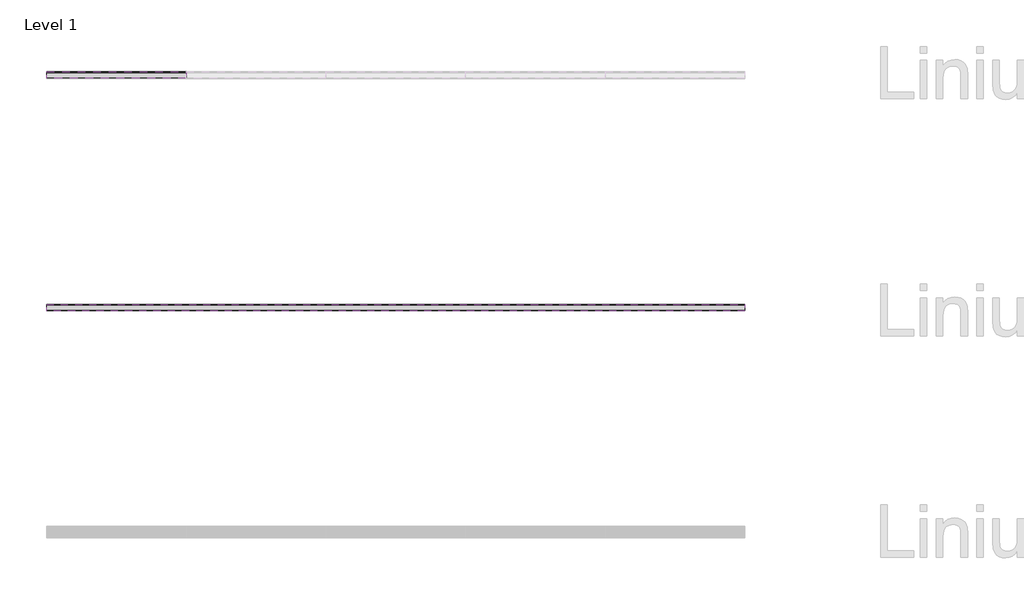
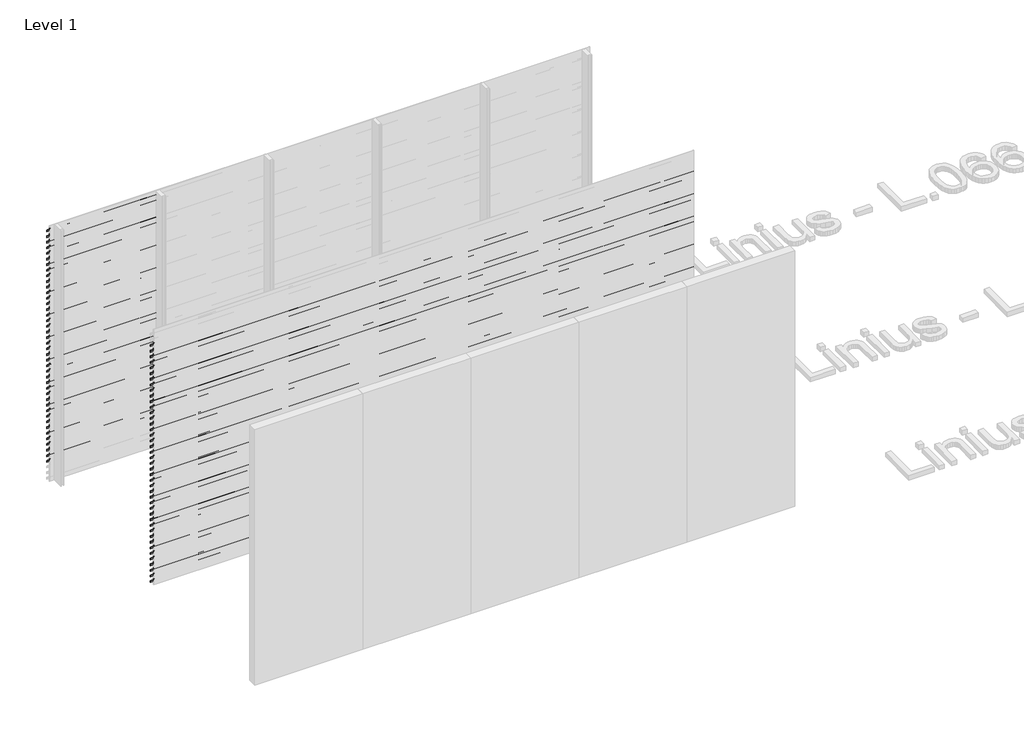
# One storey, part 25 of 540: 85 proxies.
"""IFC4 building model written with IfcOpenShell, lengths in millimetres."""

from ifc_helpers import new_model, si_unit, frame, origin, place, context, project, spatial, polyline, outline, extrude, element, save

model = new_model("IFC4")

# Units and contexts
model_context = context("Model", 3, world=origin())
ifc_project = project(units=[si_unit("LENGTHUNIT", "METRE", prefix="MILLI")], contexts=[model_context])

# Site, building, storey
site = spatial("IfcSite", under=ifc_project)
building = spatial("IfcBuilding", under=site)
storey = spatial("IfcBuildingStorey", under=building, Name="Level 1", Elevation=0.0)

# Proxies
placement = place(None, origin())
element("IfcBuildingElementProxy", 1, Name="Wall Sweeps", at=placement, inside=storey, context=model_context, shape_type="SweptSolid", body=[
    extrude(outline(polyline([(14038.0540136, 2913.5), (14038.0540136, 2893.5), (14036.8040136, 2894.2216933), (14036.8040136, 2912.7872415), (13983.0540136, 2950.3158044), (13983.0540136, 2970.0), (13984.3040136, 2970.0), (13984.3040136, 2951.0285629), (14038.0540136, 2913.5)])), frame((466.6208097, 0.0, 0.0), z_axis=(1.0, 0.0, 0.0), x_axis=(0.0, 1.0, 0.0)), (0.0, 0.0, 1.0), 1200.0000002),
])
element("IfcBuildingElementProxy", 2, Name="Wall Sweeps", at=placement, inside=storey, context=model_context, shape_type="SweptSolid", body=[
    extrude(outline(polyline([(14038.0540136, 2847.5), (14038.0540136, 2827.5), (14036.8040136, 2828.2216933), (14036.8040136, 2846.7872415), (13983.0540136, 2884.3158044), (13983.0540136, 2904.0), (13984.3040136, 2904.0), (13984.3040136, 2885.0285629), (14038.0540136, 2847.5)])), frame((466.6208097, 0.0, 0.0), z_axis=(1.0, 0.0, 0.0), x_axis=(0.0, 1.0, 0.0)), (0.0, 0.0, 1.0), 1200.0000002),
])
element("IfcBuildingElementProxy", 3, Name="Wall Sweeps", at=placement, inside=storey, context=model_context, shape_type="SweptSolid", body=[
    extrude(outline(polyline([(14038.0540136, 2781.5), (14038.0540136, 2761.5), (14036.8040136, 2762.2216933), (14036.8040136, 2780.7872415), (13983.0540136, 2818.3158044), (13983.0540136, 2838.0), (13984.3040136, 2838.0), (13984.3040136, 2819.0285629), (14038.0540136, 2781.5)])), frame((466.6208097, 0.0, 0.0), z_axis=(1.0, 0.0, 0.0), x_axis=(0.0, 1.0, 0.0)), (0.0, 0.0, 1.0), 1200.0000002),
])
element("IfcBuildingElementProxy", 4, Name="Wall Sweeps", at=placement, inside=storey, context=model_context, shape_type="SweptSolid", body=[
    extrude(outline(polyline([(14038.0540136, 2715.5), (14038.0540136, 2695.5), (14036.8040136, 2696.2216933), (14036.8040136, 2714.7872415), (13983.0540136, 2752.3158044), (13983.0540136, 2772.0), (13984.3040136, 2772.0), (13984.3040136, 2753.0285629), (14038.0540136, 2715.5)])), frame((466.6208097, 0.0, 0.0), z_axis=(1.0, 0.0, 0.0), x_axis=(0.0, 1.0, 0.0)), (0.0, 0.0, 1.0), 1200.0000002),
])
element("IfcBuildingElementProxy", 5, Name="Wall Sweeps", at=placement, inside=storey, context=model_context, shape_type="SweptSolid", body=[
    extrude(outline(polyline([(14038.0540136, 2649.5), (14038.0540136, 2629.5), (14036.8040136, 2630.2216933), (14036.8040136, 2648.7872415), (13983.0540136, 2686.3158044), (13983.0540136, 2706.0), (13984.3040136, 2706.0), (13984.3040136, 2687.0285629), (14038.0540136, 2649.5)])), frame((466.6208097, 0.0, 0.0), z_axis=(1.0, 0.0, 0.0), x_axis=(0.0, 1.0, 0.0)), (0.0, 0.0, 1.0), 1200.0000002),
])
element("IfcBuildingElementProxy", 6, Name="Wall Sweeps", at=placement, inside=storey, context=model_context, shape_type="SweptSolid", body=[
    extrude(outline(polyline([(14038.0540136, 2583.5), (14038.0540136, 2563.5), (14036.8040136, 2564.2216933), (14036.8040136, 2582.7872415), (13983.0540136, 2620.3158044), (13983.0540136, 2640.0), (13984.3040136, 2640.0), (13984.3040136, 2621.0285629), (14038.0540136, 2583.5)])), frame((466.6208097, 0.0, 0.0), z_axis=(1.0, 0.0, 0.0), x_axis=(0.0, 1.0, 0.0)), (0.0, 0.0, 1.0), 1200.0000002),
])
element("IfcBuildingElementProxy", 7, Name="Wall Sweeps", at=placement, inside=storey, context=model_context, shape_type="SweptSolid", body=[
    extrude(outline(polyline([(14038.0540136, 2517.5), (14038.0540136, 2497.5), (14036.8040136, 2498.2216933), (14036.8040136, 2516.7872415), (13983.0540136, 2554.3158044), (13983.0540136, 2574.0), (13984.3040136, 2574.0), (13984.3040136, 2555.0285629), (14038.0540136, 2517.5)])), frame((466.6208097, 0.0, 0.0), z_axis=(1.0, 0.0, 0.0), x_axis=(0.0, 1.0, 0.0)), (0.0, 0.0, 1.0), 1200.0000002),
])
element("IfcBuildingElementProxy", 8, Name="Wall Sweeps", at=placement, inside=storey, context=model_context, shape_type="SweptSolid", body=[
    extrude(outline(polyline([(14038.0540136, 2451.5), (14038.0540136, 2431.5), (14036.8040136, 2432.2216933), (14036.8040136, 2450.7872415), (13983.0540136, 2488.3158044), (13983.0540136, 2508.0), (13984.3040136, 2508.0), (13984.3040136, 2489.0285629), (14038.0540136, 2451.5)])), frame((466.6208097, 0.0, 0.0), z_axis=(1.0, 0.0, 0.0), x_axis=(0.0, 1.0, 0.0)), (0.0, 0.0, 1.0), 1200.0000002),
])
element("IfcBuildingElementProxy", 9, Name="Wall Sweeps", at=placement, inside=storey, context=model_context, shape_type="SweptSolid", body=[
    extrude(outline(polyline([(14038.0540136, 2385.5), (14038.0540136, 2365.5), (14036.8040136, 2366.2216933), (14036.8040136, 2384.7872415), (13983.0540136, 2422.3158044), (13983.0540136, 2442.0), (13984.3040136, 2442.0), (13984.3040136, 2423.0285629), (14038.0540136, 2385.5)])), frame((466.6208097, 0.0, 0.0), z_axis=(1.0, 0.0, 0.0), x_axis=(0.0, 1.0, 0.0)), (0.0, 0.0, 1.0), 1200.0000002),
])
element("IfcBuildingElementProxy", 10, Name="Wall Sweeps", at=placement, inside=storey, context=model_context, shape_type="SweptSolid", body=[
    extrude(outline(polyline([(14038.0540136, 2319.5), (14038.0540136, 2299.5), (14036.8040136, 2300.2216933), (14036.8040136, 2318.7872415), (13983.0540136, 2356.3158044), (13983.0540136, 2376.0), (13984.3040136, 2376.0), (13984.3040136, 2357.0285629), (14038.0540136, 2319.5)])), frame((466.6208097, 0.0, 0.0), z_axis=(1.0, 0.0, 0.0), x_axis=(0.0, 1.0, 0.0)), (0.0, 0.0, 1.0), 1200.0000002),
])
element("IfcBuildingElementProxy", 11, Name="Wall Sweeps", at=placement, inside=storey, context=model_context, shape_type="SweptSolid", body=[
    extrude(outline(polyline([(14038.0540136, 2253.5), (14038.0540136, 2233.5), (14036.8040136, 2234.2216933), (14036.8040136, 2252.7872415), (13983.0540136, 2290.3158044), (13983.0540136, 2310.0), (13984.3040136, 2310.0), (13984.3040136, 2291.0285629), (14038.0540136, 2253.5)])), frame((466.6208097, 0.0, 0.0), z_axis=(1.0, 0.0, 0.0), x_axis=(0.0, 1.0, 0.0)), (0.0, 0.0, 1.0), 1200.0000002),
])
element("IfcBuildingElementProxy", 12, Name="Wall Sweeps", at=placement, inside=storey, context=model_context, shape_type="SweptSolid", body=[
    extrude(outline(polyline([(14038.0540136, 2187.5), (14038.0540136, 2167.5), (14036.8040136, 2168.2216933), (14036.8040136, 2186.7872415), (13983.0540136, 2224.3158044), (13983.0540136, 2244.0), (13984.3040136, 2244.0), (13984.3040136, 2225.0285629), (14038.0540136, 2187.5)])), frame((466.6208097, 0.0, 0.0), z_axis=(1.0, 0.0, 0.0), x_axis=(0.0, 1.0, 0.0)), (0.0, 0.0, 1.0), 1200.0000002),
])
element("IfcBuildingElementProxy", 13, Name="Wall Sweeps", at=placement, inside=storey, context=model_context, shape_type="SweptSolid", body=[
    extrude(outline(polyline([(14038.0540136, 2121.5), (14038.0540136, 2101.5), (14036.8040136, 2102.2216933), (14036.8040136, 2120.7872415), (13983.0540136, 2158.3158044), (13983.0540136, 2178.0), (13984.3040136, 2178.0), (13984.3040136, 2159.0285629), (14038.0540136, 2121.5)])), frame((466.6208097, 0.0, 0.0), z_axis=(1.0, 0.0, 0.0), x_axis=(0.0, 1.0, 0.0)), (0.0, 0.0, 1.0), 1200.0000002),
])
element("IfcBuildingElementProxy", 14, Name="Wall Sweeps", at=placement, inside=storey, context=model_context, shape_type="SweptSolid", body=[
    extrude(outline(polyline([(14038.0540136, 2055.5), (14038.0540136, 2035.5), (14036.8040136, 2036.2216933), (14036.8040136, 2054.7872415), (13983.0540136, 2092.3158044), (13983.0540136, 2112.0), (13984.3040136, 2112.0), (13984.3040136, 2093.0285629), (14038.0540136, 2055.5)])), frame((466.6208097, 0.0, 0.0), z_axis=(1.0, 0.0, 0.0), x_axis=(0.0, 1.0, 0.0)), (0.0, 0.0, 1.0), 1200.0000002),
])
element("IfcBuildingElementProxy", 15, Name="Wall Sweeps", at=placement, inside=storey, context=model_context, shape_type="SweptSolid", body=[
    extrude(outline(polyline([(14038.0540136, 1989.5), (14038.0540136, 1969.5), (14036.8040136, 1970.2216933), (14036.8040136, 1988.7872415), (13983.0540136, 2026.3158044), (13983.0540136, 2046.0), (13984.3040136, 2046.0), (13984.3040136, 2027.0285629), (14038.0540136, 1989.5)])), frame((466.6208097, 0.0, 0.0), z_axis=(1.0, 0.0, 0.0), x_axis=(0.0, 1.0, 0.0)), (0.0, 0.0, 1.0), 1200.0000002),
])
element("IfcBuildingElementProxy", 16, Name="Wall Sweeps", at=placement, inside=storey, context=model_context, shape_type="SweptSolid", body=[
    extrude(outline(polyline([(14038.0540136, 1923.5), (14038.0540136, 1903.5), (14036.8040136, 1904.2216933), (14036.8040136, 1922.7872415), (13983.0540136, 1960.3158044), (13983.0540136, 1980.0), (13984.3040136, 1980.0), (13984.3040136, 1961.0285629), (14038.0540136, 1923.5)])), frame((466.6208097, 0.0, 0.0), z_axis=(1.0, 0.0, 0.0), x_axis=(0.0, 1.0, 0.0)), (0.0, 0.0, 1.0), 1200.0000002),
])
element("IfcBuildingElementProxy", 17, Name="Wall Sweeps", at=placement, inside=storey, context=model_context, shape_type="SweptSolid", body=[
    extrude(outline(polyline([(14038.0540136, 1857.5), (14038.0540136, 1837.5), (14036.8040136, 1838.2216933), (14036.8040136, 1856.7872415), (13983.0540136, 1894.3158044), (13983.0540136, 1914.0), (13984.3040136, 1914.0), (13984.3040136, 1895.0285629), (14038.0540136, 1857.5)])), frame((466.6208097, 0.0, 0.0), z_axis=(1.0, 0.0, 0.0), x_axis=(0.0, 1.0, 0.0)), (0.0, 0.0, 1.0), 1200.0000002),
])
element("IfcBuildingElementProxy", 18, Name="Wall Sweeps", at=placement, inside=storey, context=model_context, shape_type="SweptSolid", body=[
    extrude(outline(polyline([(14038.0540136, 1791.5), (14038.0540136, 1771.5), (14036.8040136, 1772.2216933), (14036.8040136, 1790.7872415), (13983.0540136, 1828.3158044), (13983.0540136, 1848.0), (13984.3040136, 1848.0), (13984.3040136, 1829.0285629), (14038.0540136, 1791.5)])), frame((466.6208097, 0.0, 0.0), z_axis=(1.0, 0.0, 0.0), x_axis=(0.0, 1.0, 0.0)), (0.0, 0.0, 1.0), 1200.0000002),
])
element("IfcBuildingElementProxy", 19, Name="Wall Sweeps", at=placement, inside=storey, context=model_context, shape_type="SweptSolid", body=[
    extrude(outline(polyline([(14038.0540136, 1725.5), (14038.0540136, 1705.5), (14036.8040136, 1706.2216933), (14036.8040136, 1724.7872415), (13983.0540136, 1762.3158044), (13983.0540136, 1782.0), (13984.3040136, 1782.0), (13984.3040136, 1763.0285629), (14038.0540136, 1725.5)])), frame((466.6208097, 0.0, 0.0), z_axis=(1.0, 0.0, 0.0), x_axis=(0.0, 1.0, 0.0)), (0.0, 0.0, 1.0), 1200.0000002),
])
element("IfcBuildingElementProxy", 20, Name="Wall Sweeps", at=placement, inside=storey, context=model_context, shape_type="SweptSolid", body=[
    extrude(outline(polyline([(14038.0540136, 1659.5), (14038.0540136, 1639.5), (14036.8040136, 1640.2216933), (14036.8040136, 1658.7872415), (13983.0540136, 1696.3158044), (13983.0540136, 1716.0), (13984.3040136, 1716.0), (13984.3040136, 1697.0285629), (14038.0540136, 1659.5)])), frame((466.6208097, 0.0, 0.0), z_axis=(1.0, 0.0, 0.0), x_axis=(0.0, 1.0, 0.0)), (0.0, 0.0, 1.0), 1200.0000002),
])
element("IfcBuildingElementProxy", 21, Name="Wall Sweeps", at=placement, inside=storey, context=model_context, shape_type="SweptSolid", body=[
    extrude(outline(polyline([(14038.0540136, 1593.5), (14038.0540136, 1573.5), (14036.8040136, 1574.2216933), (14036.8040136, 1592.7872415), (13983.0540136, 1630.3158044), (13983.0540136, 1650.0), (13984.3040136, 1650.0), (13984.3040136, 1631.0285629), (14038.0540136, 1593.5)])), frame((466.6208097, 0.0, 0.0), z_axis=(1.0, 0.0, 0.0), x_axis=(0.0, 1.0, 0.0)), (0.0, 0.0, 1.0), 1200.0000002),
])
element("IfcBuildingElementProxy", 22, Name="Wall Sweeps", at=placement, inside=storey, context=model_context, shape_type="SweptSolid", body=[
    extrude(outline(polyline([(14038.0540136, 1527.5), (14038.0540136, 1507.5), (14036.8040136, 1508.2216933), (14036.8040136, 1526.7872415), (13983.0540136, 1564.3158044), (13983.0540136, 1584.0), (13984.3040136, 1584.0), (13984.3040136, 1565.0285629), (14038.0540136, 1527.5)])), frame((466.6208097, 0.0, 0.0), z_axis=(1.0, 0.0, 0.0), x_axis=(0.0, 1.0, 0.0)), (0.0, 0.0, 1.0), 1200.0000002),
])
element("IfcBuildingElementProxy", 23, Name="Wall Sweeps", at=placement, inside=storey, context=model_context, shape_type="SweptSolid", body=[
    extrude(outline(polyline([(14038.0540136, 1461.5), (14038.0540136, 1441.5), (14036.8040136, 1442.2216933), (14036.8040136, 1460.7872415), (13983.0540136, 1498.3158044), (13983.0540136, 1518.0), (13984.3040136, 1518.0), (13984.3040136, 1499.0285629), (14038.0540136, 1461.5)])), frame((466.6208097, 0.0, 0.0), z_axis=(1.0, 0.0, 0.0), x_axis=(0.0, 1.0, 0.0)), (0.0, 0.0, 1.0), 1200.0000002),
])
element("IfcBuildingElementProxy", 24, Name="Wall Sweeps", at=placement, inside=storey, context=model_context, shape_type="SweptSolid", body=[
    extrude(outline(polyline([(14038.0540136, 1395.5), (14038.0540136, 1375.5), (14036.8040136, 1376.2216933), (14036.8040136, 1394.7872415), (13983.0540136, 1432.3158044), (13983.0540136, 1452.0), (13984.3040136, 1452.0), (13984.3040136, 1433.0285629), (14038.0540136, 1395.5)])), frame((466.6208097, 0.0, 0.0), z_axis=(1.0, 0.0, 0.0), x_axis=(0.0, 1.0, 0.0)), (0.0, 0.0, 1.0), 1200.0000002),
])
element("IfcBuildingElementProxy", 25, Name="Wall Sweeps", at=placement, inside=storey, context=model_context, shape_type="SweptSolid", body=[
    extrude(outline(polyline([(14038.0540136, 1329.5), (14038.0540136, 1309.5), (14036.8040136, 1310.2216933), (14036.8040136, 1328.7872415), (13983.0540136, 1366.3158044), (13983.0540136, 1386.0), (13984.3040136, 1386.0), (13984.3040136, 1367.0285629), (14038.0540136, 1329.5)])), frame((466.6208097, 0.0, 0.0), z_axis=(1.0, 0.0, 0.0), x_axis=(0.0, 1.0, 0.0)), (0.0, 0.0, 1.0), 1200.0000002),
])
element("IfcBuildingElementProxy", 26, Name="Wall Sweeps", at=placement, inside=storey, context=model_context, shape_type="SweptSolid", body=[
    extrude(outline(polyline([(14038.0540136, 1263.5), (14038.0540136, 1243.5), (14036.8040136, 1244.2216933), (14036.8040136, 1262.7872415), (13983.0540136, 1300.3158044), (13983.0540136, 1320.0), (13984.3040136, 1320.0), (13984.3040136, 1301.0285629), (14038.0540136, 1263.5)])), frame((466.6208097, 0.0, 0.0), z_axis=(1.0, 0.0, 0.0), x_axis=(0.0, 1.0, 0.0)), (0.0, 0.0, 1.0), 1200.0000002),
])
element("IfcBuildingElementProxy", 27, Name="Wall Sweeps", at=placement, inside=storey, context=model_context, shape_type="SweptSolid", body=[
    extrude(outline(polyline([(14038.0540136, 1197.5), (14038.0540136, 1177.5), (14036.8040136, 1178.2216933), (14036.8040136, 1196.7872415), (13983.0540136, 1234.3158044), (13983.0540136, 1254.0), (13984.3040136, 1254.0), (13984.3040136, 1235.0285629), (14038.0540136, 1197.5)])), frame((466.6208097, 0.0, 0.0), z_axis=(1.0, 0.0, 0.0), x_axis=(0.0, 1.0, 0.0)), (0.0, 0.0, 1.0), 1200.0000002),
])
element("IfcBuildingElementProxy", 28, Name="Wall Sweeps", at=placement, inside=storey, context=model_context, shape_type="SweptSolid", body=[
    extrude(outline(polyline([(14038.0540136, 1131.5), (14038.0540136, 1111.5), (14036.8040136, 1112.2216933), (14036.8040136, 1130.7872415), (13983.0540136, 1168.3158044), (13983.0540136, 1188.0), (13984.3040136, 1188.0), (13984.3040136, 1169.0285629), (14038.0540136, 1131.5)])), frame((466.6208097, 0.0, 0.0), z_axis=(1.0, 0.0, 0.0), x_axis=(0.0, 1.0, 0.0)), (0.0, 0.0, 1.0), 1200.0000002),
])
element("IfcBuildingElementProxy", 29, Name="Wall Sweeps", at=placement, inside=storey, context=model_context, shape_type="SweptSolid", body=[
    extrude(outline(polyline([(14038.0540136, 1065.5), (14038.0540136, 1045.5), (14036.8040136, 1046.2216933), (14036.8040136, 1064.7872415), (13983.0540136, 1102.3158044), (13983.0540136, 1122.0), (13984.3040136, 1122.0), (13984.3040136, 1103.0285629), (14038.0540136, 1065.5)])), frame((466.6208097, 0.0, 0.0), z_axis=(1.0, 0.0, 0.0), x_axis=(0.0, 1.0, 0.0)), (0.0, 0.0, 1.0), 1200.0000002),
])
element("IfcBuildingElementProxy", 30, Name="Wall Sweeps", at=placement, inside=storey, context=model_context, shape_type="SweptSolid", body=[
    extrude(outline(polyline([(14038.0540136, 999.5), (14038.0540136, 979.5), (14036.8040136, 980.2216933), (14036.8040136, 998.7872415), (13983.0540136, 1036.3158044), (13983.0540136, 1056.0), (13984.3040136, 1056.0), (13984.3040136, 1037.0285629), (14038.0540136, 999.5)])), frame((466.6208097, 0.0, 0.0), z_axis=(1.0, 0.0, 0.0), x_axis=(0.0, 1.0, 0.0)), (0.0, 0.0, 1.0), 1200.0000002),
])
element("IfcBuildingElementProxy", 31, Name="Wall Sweeps", at=placement, inside=storey, context=model_context, shape_type="SweptSolid", body=[
    extrude(outline(polyline([(14038.0540136, 933.5), (14038.0540136, 913.5), (14036.8040136, 914.2216933), (14036.8040136, 932.7872415), (13983.0540136, 970.3158044), (13983.0540136, 990.0), (13984.3040136, 990.0), (13984.3040136, 971.0285629), (14038.0540136, 933.5)])), frame((466.6208097, 0.0, 0.0), z_axis=(1.0, 0.0, 0.0), x_axis=(0.0, 1.0, 0.0)), (0.0, 0.0, 1.0), 1200.0000002),
])
element("IfcBuildingElementProxy", 32, Name="Wall Sweeps", at=placement, inside=storey, context=model_context, shape_type="SweptSolid", body=[
    extrude(outline(polyline([(14038.0540136, 867.5), (14038.0540136, 847.5), (14036.8040136, 848.2216933), (14036.8040136, 866.7872415), (13983.0540136, 904.3158044), (13983.0540136, 924.0), (13984.3040136, 924.0), (13984.3040136, 905.0285629), (14038.0540136, 867.5)])), frame((466.6208097, 0.0, 0.0), z_axis=(1.0, 0.0, 0.0), x_axis=(0.0, 1.0, 0.0)), (0.0, 0.0, 1.0), 1200.0000002),
])
element("IfcBuildingElementProxy", 33, Name="Wall Sweeps", at=placement, inside=storey, context=model_context, shape_type="SweptSolid", body=[
    extrude(outline(polyline([(14038.0540136, 801.5), (14038.0540136, 781.5), (14036.8040136, 782.2216933), (14036.8040136, 800.7872415), (13983.0540136, 838.3158044), (13983.0540136, 858.0), (13984.3040136, 858.0), (13984.3040136, 839.0285629), (14038.0540136, 801.5)])), frame((466.6208097, 0.0, 0.0), z_axis=(1.0, 0.0, 0.0), x_axis=(0.0, 1.0, 0.0)), (0.0, 0.0, 1.0), 1200.0000002),
])
element("IfcBuildingElementProxy", 34, Name="Wall Sweeps", at=placement, inside=storey, context=model_context, shape_type="SweptSolid", body=[
    extrude(outline(polyline([(14038.0540136, 735.5), (14038.0540136, 715.5), (14036.8040136, 716.2216933), (14036.8040136, 734.7872415), (13983.0540136, 772.3158044), (13983.0540136, 792.0), (13984.3040136, 792.0), (13984.3040136, 773.0285629), (14038.0540136, 735.5)])), frame((466.6208097, 0.0, 0.0), z_axis=(1.0, 0.0, 0.0), x_axis=(0.0, 1.0, 0.0)), (0.0, 0.0, 1.0), 1200.0000002),
])
element("IfcBuildingElementProxy", 35, Name="Wall Sweeps", at=placement, inside=storey, context=model_context, shape_type="SweptSolid", body=[
    extrude(outline(polyline([(14038.0540136, 669.5), (14038.0540136, 649.5), (14036.8040136, 650.2216933), (14036.8040136, 668.7872415), (13983.0540136, 706.3158044), (13983.0540136, 726.0), (13984.3040136, 726.0), (13984.3040136, 707.0285629), (14038.0540136, 669.5)])), frame((466.6208097, 0.0, 0.0), z_axis=(1.0, 0.0, 0.0), x_axis=(0.0, 1.0, 0.0)), (0.0, 0.0, 1.0), 1200.0000002),
])
element("IfcBuildingElementProxy", 36, Name="Wall Sweeps", at=placement, inside=storey, context=model_context, shape_type="SweptSolid", body=[
    extrude(outline(polyline([(14038.0540136, 603.5), (14038.0540136, 583.5), (14036.8040136, 584.2216933), (14036.8040136, 602.7872415), (13983.0540136, 640.3158044), (13983.0540136, 660.0), (13984.3040136, 660.0), (13984.3040136, 641.0285629), (14038.0540136, 603.5)])), frame((466.6208097, 0.0, 0.0), z_axis=(1.0, 0.0, 0.0), x_axis=(0.0, 1.0, 0.0)), (0.0, 0.0, 1.0), 1200.0000002),
])
element("IfcBuildingElementProxy", 37, Name="Wall Sweeps", at=placement, inside=storey, context=model_context, shape_type="SweptSolid", body=[
    extrude(outline(polyline([(14038.0540136, 537.5), (14038.0540136, 517.5), (14036.8040136, 518.2216933), (14036.8040136, 536.7872415), (13983.0540136, 574.3158044), (13983.0540136, 594.0), (13984.3040136, 594.0), (13984.3040136, 575.0285629), (14038.0540136, 537.5)])), frame((466.6208097, 0.0, 0.0), z_axis=(1.0, 0.0, 0.0), x_axis=(0.0, 1.0, 0.0)), (0.0, 0.0, 1.0), 1200.0000002),
])
element("IfcBuildingElementProxy", 38, Name="Wall Sweeps", at=placement, inside=storey, context=model_context, shape_type="SweptSolid", body=[
    extrude(outline(polyline([(14038.0540136, 471.5), (14038.0540136, 451.5), (14036.8040136, 452.2216933), (14036.8040136, 470.7872415), (13983.0540136, 508.3158044), (13983.0540136, 528.0), (13984.3040136, 528.0), (13984.3040136, 509.0285629), (14038.0540136, 471.5)])), frame((466.6208097, 0.0, 0.0), z_axis=(1.0, 0.0, 0.0), x_axis=(0.0, 1.0, 0.0)), (0.0, 0.0, 1.0), 1200.0000002),
])
element("IfcBuildingElementProxy", 39, Name="Wall Sweeps", at=placement, inside=storey, context=model_context, shape_type="SweptSolid", body=[
    extrude(outline(polyline([(14038.0540136, 405.5), (14038.0540136, 385.5), (14036.8040136, 386.2216933), (14036.8040136, 404.7872415), (13983.0540136, 442.3158044), (13983.0540136, 462.0), (13984.3040136, 462.0), (13984.3040136, 443.0285629), (14038.0540136, 405.5)])), frame((466.6208097, 0.0, 0.0), z_axis=(1.0, 0.0, 0.0), x_axis=(0.0, 1.0, 0.0)), (0.0, 0.0, 1.0), 1200.0000002),
])
element("IfcBuildingElementProxy", 40, Name="Wall Sweeps", at=placement, inside=storey, context=model_context, shape_type="SweptSolid", body=[
    extrude(outline(polyline([(14038.0540136, 339.5), (14038.0540136, 319.5), (14036.8040136, 320.2216933), (14036.8040136, 338.7872415), (13983.0540136, 376.3158044), (13983.0540136, 396.0), (13984.3040136, 396.0), (13984.3040136, 377.0285629), (14038.0540136, 339.5)])), frame((466.6208097, 0.0, 0.0), z_axis=(1.0, 0.0, 0.0), x_axis=(0.0, 1.0, 0.0)), (0.0, 0.0, 1.0), 1200.0000002),
])
element("IfcBuildingElementProxy", 41, Name="Wall Sweeps", at=placement, inside=storey, context=model_context, shape_type="SweptSolid", body=[
    extrude(outline(polyline([(14038.0540136, 273.5), (14038.0540136, 253.5), (14036.8040136, 254.2216933), (14036.8040136, 272.7872415), (13983.0540136, 310.3158044), (13983.0540136, 330.0), (13984.3040136, 330.0), (13984.3040136, 311.0285629), (14038.0540136, 273.5)])), frame((466.6208097, 0.0, 0.0), z_axis=(1.0, 0.0, 0.0), x_axis=(0.0, 1.0, 0.0)), (0.0, 0.0, 1.0), 1200.0000002),
])
element("IfcBuildingElementProxy", 42, Name="Wall Sweeps", at=placement, inside=storey, context=model_context, shape_type="SweptSolid", body=[
    extrude(outline(polyline([(14038.0540136, 207.5), (14038.0540136, 187.5), (14036.8040136, 188.2216933), (14036.8040136, 206.7872415), (13983.0540136, 244.3158044), (13983.0540136, 264.0), (13984.3040136, 264.0), (13984.3040136, 245.0285629), (14038.0540136, 207.5)])), frame((466.6208097, 0.0, 0.0), z_axis=(1.0, 0.0, 0.0), x_axis=(0.0, 1.0, 0.0)), (0.0, 0.0, 1.0), 1200.0000002),
])
element("IfcBuildingElementProxy", 43, Name="Wall Sweeps", at=placement, inside=storey, context=model_context, shape_type="SweptSolid", body=[
    extrude(outline(polyline([(12038.0540136, 2781.5), (12038.0540136, 2761.5), (12036.8040136, 2762.2216933), (12036.8040136, 2780.7872415), (11983.0540136, 2818.3158044), (11983.0540136, 2838.0), (11984.3040136, 2838.0), (11984.3040136, 2819.0285629), (12038.0540136, 2781.5)])), frame((466.6208097, 0.0, 0.0), z_axis=(1.0, 0.0, 0.0), x_axis=(0.0, 1.0, 0.0)), (0.0, 0.0, 1.0), 6000.0),
])
element("IfcBuildingElementProxy", 44, Name="Wall Sweeps", at=placement, inside=storey, context=model_context, shape_type="SweptSolid", body=[
    extrude(outline(polyline([(12038.0540136, 2715.5), (12038.0540136, 2695.5), (12036.8040136, 2696.2216933), (12036.8040136, 2714.7872415), (11983.0540136, 2752.3158044), (11983.0540136, 2772.0), (11984.3040136, 2772.0), (11984.3040136, 2753.0285629), (12038.0540136, 2715.5)])), frame((466.6208097, 0.0, 0.0), z_axis=(1.0, 0.0, 0.0), x_axis=(0.0, 1.0, 0.0)), (0.0, 0.0, 1.0), 6000.0),
])
element("IfcBuildingElementProxy", 45, Name="Wall Sweeps", at=placement, inside=storey, context=model_context, shape_type="SweptSolid", body=[
    extrude(outline(polyline([(12038.0540136, 2649.5), (12038.0540136, 2629.5), (12036.8040136, 2630.2216933), (12036.8040136, 2648.7872415), (11983.0540136, 2686.3158044), (11983.0540136, 2706.0), (11984.3040136, 2706.0), (11984.3040136, 2687.0285629), (12038.0540136, 2649.5)])), frame((466.6208097, 0.0, 0.0), z_axis=(1.0, 0.0, 0.0), x_axis=(0.0, 1.0, 0.0)), (0.0, 0.0, 1.0), 6000.0),
])
element("IfcBuildingElementProxy", 46, Name="Wall Sweeps", at=placement, inside=storey, context=model_context, shape_type="SweptSolid", body=[
    extrude(outline(polyline([(12038.0540136, 2583.5), (12038.0540136, 2563.5), (12036.8040136, 2564.2216933), (12036.8040136, 2582.7872415), (11983.0540136, 2620.3158044), (11983.0540136, 2640.0), (11984.3040136, 2640.0), (11984.3040136, 2621.0285629), (12038.0540136, 2583.5)])), frame((466.6208097, 0.0, 0.0), z_axis=(1.0, 0.0, 0.0), x_axis=(0.0, 1.0, 0.0)), (0.0, 0.0, 1.0), 6000.0),
])
element("IfcBuildingElementProxy", 47, Name="Wall Sweeps", at=placement, inside=storey, context=model_context, shape_type="SweptSolid", body=[
    extrude(outline(polyline([(12038.0540136, 2517.5), (12038.0540136, 2497.5), (12036.8040136, 2498.2216933), (12036.8040136, 2516.7872415), (11983.0540136, 2554.3158044), (11983.0540136, 2574.0), (11984.3040136, 2574.0), (11984.3040136, 2555.0285629), (12038.0540136, 2517.5)])), frame((466.6208097, 0.0, 0.0), z_axis=(1.0, 0.0, 0.0), x_axis=(0.0, 1.0, 0.0)), (0.0, 0.0, 1.0), 6000.0),
])
element("IfcBuildingElementProxy", 48, Name="Wall Sweeps", at=placement, inside=storey, context=model_context, shape_type="SweptSolid", body=[
    extrude(outline(polyline([(12038.0540136, 2451.5), (12038.0540136, 2431.5), (12036.8040136, 2432.2216933), (12036.8040136, 2450.7872415), (11983.0540136, 2488.3158044), (11983.0540136, 2508.0), (11984.3040136, 2508.0), (11984.3040136, 2489.0285629), (12038.0540136, 2451.5)])), frame((466.6208097, 0.0, 0.0), z_axis=(1.0, 0.0, 0.0), x_axis=(0.0, 1.0, 0.0)), (0.0, 0.0, 1.0), 6000.0),
])
element("IfcBuildingElementProxy", 49, Name="Wall Sweeps", at=placement, inside=storey, context=model_context, shape_type="SweptSolid", body=[
    extrude(outline(polyline([(12038.0540136, 2385.5), (12038.0540136, 2365.5), (12036.8040136, 2366.2216933), (12036.8040136, 2384.7872415), (11983.0540136, 2422.3158044), (11983.0540136, 2442.0), (11984.3040136, 2442.0), (11984.3040136, 2423.0285629), (12038.0540136, 2385.5)])), frame((466.6208097, 0.0, 0.0), z_axis=(1.0, 0.0, 0.0), x_axis=(0.0, 1.0, 0.0)), (0.0, 0.0, 1.0), 6000.0),
])
element("IfcBuildingElementProxy", 50, Name="Wall Sweeps", at=placement, inside=storey, context=model_context, shape_type="SweptSolid", body=[
    extrude(outline(polyline([(12038.0540136, 2319.5), (12038.0540136, 2299.5), (12036.8040136, 2300.2216933), (12036.8040136, 2318.7872415), (11983.0540136, 2356.3158044), (11983.0540136, 2376.0), (11984.3040136, 2376.0), (11984.3040136, 2357.0285629), (12038.0540136, 2319.5)])), frame((466.6208097, 0.0, 0.0), z_axis=(1.0, 0.0, 0.0), x_axis=(0.0, 1.0, 0.0)), (0.0, 0.0, 1.0), 6000.0),
])
element("IfcBuildingElementProxy", 51, Name="Wall Sweeps", at=placement, inside=storey, context=model_context, shape_type="SweptSolid", body=[
    extrude(outline(polyline([(12038.0540136, 2253.5), (12038.0540136, 2233.5), (12036.8040136, 2234.2216933), (12036.8040136, 2252.7872415), (11983.0540136, 2290.3158044), (11983.0540136, 2310.0), (11984.3040136, 2310.0), (11984.3040136, 2291.0285629), (12038.0540136, 2253.5)])), frame((466.6208097, 0.0, 0.0), z_axis=(1.0, 0.0, 0.0), x_axis=(0.0, 1.0, 0.0)), (0.0, 0.0, 1.0), 6000.0),
])
element("IfcBuildingElementProxy", 52, Name="Wall Sweeps", at=placement, inside=storey, context=model_context, shape_type="SweptSolid", body=[
    extrude(outline(polyline([(12038.0540136, 2187.5), (12038.0540136, 2167.5), (12036.8040136, 2168.2216933), (12036.8040136, 2186.7872415), (11983.0540136, 2224.3158044), (11983.0540136, 2244.0), (11984.3040136, 2244.0), (11984.3040136, 2225.0285629), (12038.0540136, 2187.5)])), frame((466.6208097, 0.0, 0.0), z_axis=(1.0, 0.0, 0.0), x_axis=(0.0, 1.0, 0.0)), (0.0, 0.0, 1.0), 6000.0),
])
element("IfcBuildingElementProxy", 53, Name="Wall Sweeps", at=placement, inside=storey, context=model_context, shape_type="SweptSolid", body=[
    extrude(outline(polyline([(12038.0540136, 2121.5), (12038.0540136, 2101.5), (12036.8040136, 2102.2216933), (12036.8040136, 2120.7872415), (11983.0540136, 2158.3158044), (11983.0540136, 2178.0), (11984.3040136, 2178.0), (11984.3040136, 2159.0285629), (12038.0540136, 2121.5)])), frame((466.6208097, 0.0, 0.0), z_axis=(1.0, 0.0, 0.0), x_axis=(0.0, 1.0, 0.0)), (0.0, 0.0, 1.0), 6000.0),
])
element("IfcBuildingElementProxy", 54, Name="Wall Sweeps", at=placement, inside=storey, context=model_context, shape_type="SweptSolid", body=[
    extrude(outline(polyline([(12038.0540136, 2055.5), (12038.0540136, 2035.5), (12036.8040136, 2036.2216933), (12036.8040136, 2054.7872415), (11983.0540136, 2092.3158044), (11983.0540136, 2112.0), (11984.3040136, 2112.0), (11984.3040136, 2093.0285629), (12038.0540136, 2055.5)])), frame((466.6208097, 0.0, 0.0), z_axis=(1.0, 0.0, 0.0), x_axis=(0.0, 1.0, 0.0)), (0.0, 0.0, 1.0), 6000.0),
])
element("IfcBuildingElementProxy", 55, Name="Wall Sweeps", at=placement, inside=storey, context=model_context, shape_type="SweptSolid", body=[
    extrude(outline(polyline([(12038.0540136, 1989.5), (12038.0540136, 1969.5), (12036.8040136, 1970.2216933), (12036.8040136, 1988.7872415), (11983.0540136, 2026.3158044), (11983.0540136, 2046.0), (11984.3040136, 2046.0), (11984.3040136, 2027.0285629), (12038.0540136, 1989.5)])), frame((466.6208097, 0.0, 0.0), z_axis=(1.0, 0.0, 0.0), x_axis=(0.0, 1.0, 0.0)), (0.0, 0.0, 1.0), 6000.0),
])
element("IfcBuildingElementProxy", 56, Name="Wall Sweeps", at=placement, inside=storey, context=model_context, shape_type="SweptSolid", body=[
    extrude(outline(polyline([(12038.0540136, 1923.5), (12038.0540136, 1903.5), (12036.8040136, 1904.2216933), (12036.8040136, 1922.7872415), (11983.0540136, 1960.3158044), (11983.0540136, 1980.0), (11984.3040136, 1980.0), (11984.3040136, 1961.0285629), (12038.0540136, 1923.5)])), frame((466.6208097, 0.0, 0.0), z_axis=(1.0, 0.0, 0.0), x_axis=(0.0, 1.0, 0.0)), (0.0, 0.0, 1.0), 6000.0),
])
element("IfcBuildingElementProxy", 57, Name="Wall Sweeps", at=placement, inside=storey, context=model_context, shape_type="SweptSolid", body=[
    extrude(outline(polyline([(12038.0540136, 1857.5), (12038.0540136, 1837.5), (12036.8040136, 1838.2216933), (12036.8040136, 1856.7872415), (11983.0540136, 1894.3158044), (11983.0540136, 1914.0), (11984.3040136, 1914.0), (11984.3040136, 1895.0285629), (12038.0540136, 1857.5)])), frame((466.6208097, 0.0, 0.0), z_axis=(1.0, 0.0, 0.0), x_axis=(0.0, 1.0, 0.0)), (0.0, 0.0, 1.0), 6000.0),
])
element("IfcBuildingElementProxy", 58, Name="Wall Sweeps", at=placement, inside=storey, context=model_context, shape_type="SweptSolid", body=[
    extrude(outline(polyline([(12038.0540136, 1791.5), (12038.0540136, 1771.5), (12036.8040136, 1772.2216933), (12036.8040136, 1790.7872415), (11983.0540136, 1828.3158044), (11983.0540136, 1848.0), (11984.3040136, 1848.0), (11984.3040136, 1829.0285629), (12038.0540136, 1791.5)])), frame((466.6208097, 0.0, 0.0), z_axis=(1.0, 0.0, 0.0), x_axis=(0.0, 1.0, 0.0)), (0.0, 0.0, 1.0), 6000.0),
])
element("IfcBuildingElementProxy", 59, Name="Wall Sweeps", at=placement, inside=storey, context=model_context, shape_type="SweptSolid", body=[
    extrude(outline(polyline([(12038.0540136, 1725.5), (12038.0540136, 1705.5), (12036.8040136, 1706.2216933), (12036.8040136, 1724.7872415), (11983.0540136, 1762.3158044), (11983.0540136, 1782.0), (11984.3040136, 1782.0), (11984.3040136, 1763.0285629), (12038.0540136, 1725.5)])), frame((466.6208097, 0.0, 0.0), z_axis=(1.0, 0.0, 0.0), x_axis=(0.0, 1.0, 0.0)), (0.0, 0.0, 1.0), 6000.0),
])
element("IfcBuildingElementProxy", 60, Name="Wall Sweeps", at=placement, inside=storey, context=model_context, shape_type="SweptSolid", body=[
    extrude(outline(polyline([(12038.0540136, 1659.5), (12038.0540136, 1639.5), (12036.8040136, 1640.2216933), (12036.8040136, 1658.7872415), (11983.0540136, 1696.3158044), (11983.0540136, 1716.0), (11984.3040136, 1716.0), (11984.3040136, 1697.0285629), (12038.0540136, 1659.5)])), frame((466.6208097, 0.0, 0.0), z_axis=(1.0, 0.0, 0.0), x_axis=(0.0, 1.0, 0.0)), (0.0, 0.0, 1.0), 6000.0),
])
element("IfcBuildingElementProxy", 61, Name="Wall Sweeps", at=placement, inside=storey, context=model_context, shape_type="SweptSolid", body=[
    extrude(outline(polyline([(12038.0540136, 1593.5), (12038.0540136, 1573.5), (12036.8040136, 1574.2216933), (12036.8040136, 1592.7872415), (11983.0540136, 1630.3158044), (11983.0540136, 1650.0), (11984.3040136, 1650.0), (11984.3040136, 1631.0285629), (12038.0540136, 1593.5)])), frame((466.6208097, 0.0, 0.0), z_axis=(1.0, 0.0, 0.0), x_axis=(0.0, 1.0, 0.0)), (0.0, 0.0, 1.0), 6000.0),
])
element("IfcBuildingElementProxy", 62, Name="Wall Sweeps", at=placement, inside=storey, context=model_context, shape_type="SweptSolid", body=[
    extrude(outline(polyline([(12038.0540136, 1527.5), (12038.0540136, 1507.5), (12036.8040136, 1508.2216933), (12036.8040136, 1526.7872415), (11983.0540136, 1564.3158044), (11983.0540136, 1584.0), (11984.3040136, 1584.0), (11984.3040136, 1565.0285629), (12038.0540136, 1527.5)])), frame((466.6208097, 0.0, 0.0), z_axis=(1.0, 0.0, 0.0), x_axis=(0.0, 1.0, 0.0)), (0.0, 0.0, 1.0), 6000.0),
])
element("IfcBuildingElementProxy", 63, Name="Wall Sweeps", at=placement, inside=storey, context=model_context, shape_type="SweptSolid", body=[
    extrude(outline(polyline([(12038.0540136, 1461.5), (12038.0540136, 1441.5), (12036.8040136, 1442.2216933), (12036.8040136, 1460.7872415), (11983.0540136, 1498.3158044), (11983.0540136, 1518.0), (11984.3040136, 1518.0), (11984.3040136, 1499.0285629), (12038.0540136, 1461.5)])), frame((466.6208097, 0.0, 0.0), z_axis=(1.0, 0.0, 0.0), x_axis=(0.0, 1.0, 0.0)), (0.0, 0.0, 1.0), 6000.0),
])
element("IfcBuildingElementProxy", 64, Name="Wall Sweeps", at=placement, inside=storey, context=model_context, shape_type="SweptSolid", body=[
    extrude(outline(polyline([(12038.0540136, 1395.5), (12038.0540136, 1375.5), (12036.8040136, 1376.2216933), (12036.8040136, 1394.7872415), (11983.0540136, 1432.3158044), (11983.0540136, 1452.0), (11984.3040136, 1452.0), (11984.3040136, 1433.0285629), (12038.0540136, 1395.5)])), frame((466.6208097, 0.0, 0.0), z_axis=(1.0, 0.0, 0.0), x_axis=(0.0, 1.0, 0.0)), (0.0, 0.0, 1.0), 6000.0),
])
element("IfcBuildingElementProxy", 65, Name="Wall Sweeps", at=placement, inside=storey, context=model_context, shape_type="SweptSolid", body=[
    extrude(outline(polyline([(12038.0540136, 1329.5), (12038.0540136, 1309.5), (12036.8040136, 1310.2216933), (12036.8040136, 1328.7872415), (11983.0540136, 1366.3158044), (11983.0540136, 1386.0), (11984.3040136, 1386.0), (11984.3040136, 1367.0285629), (12038.0540136, 1329.5)])), frame((466.6208097, 0.0, 0.0), z_axis=(1.0, 0.0, 0.0), x_axis=(0.0, 1.0, 0.0)), (0.0, 0.0, 1.0), 6000.0),
])
element("IfcBuildingElementProxy", 66, Name="Wall Sweeps", at=placement, inside=storey, context=model_context, shape_type="SweptSolid", body=[
    extrude(outline(polyline([(12038.0540136, 1263.5), (12038.0540136, 1243.5), (12036.8040136, 1244.2216933), (12036.8040136, 1262.7872415), (11983.0540136, 1300.3158044), (11983.0540136, 1320.0), (11984.3040136, 1320.0), (11984.3040136, 1301.0285629), (12038.0540136, 1263.5)])), frame((466.6208097, 0.0, 0.0), z_axis=(1.0, 0.0, 0.0), x_axis=(0.0, 1.0, 0.0)), (0.0, 0.0, 1.0), 6000.0),
])
element("IfcBuildingElementProxy", 67, Name="Wall Sweeps", at=placement, inside=storey, context=model_context, shape_type="SweptSolid", body=[
    extrude(outline(polyline([(12038.0540136, 1197.5), (12038.0540136, 1177.5), (12036.8040136, 1178.2216933), (12036.8040136, 1196.7872415), (11983.0540136, 1234.3158044), (11983.0540136, 1254.0), (11984.3040136, 1254.0), (11984.3040136, 1235.0285629), (12038.0540136, 1197.5)])), frame((466.6208097, 0.0, 0.0), z_axis=(1.0, 0.0, 0.0), x_axis=(0.0, 1.0, 0.0)), (0.0, 0.0, 1.0), 6000.0),
])
element("IfcBuildingElementProxy", 68, Name="Wall Sweeps", at=placement, inside=storey, context=model_context, shape_type="SweptSolid", body=[
    extrude(outline(polyline([(12038.0540136, 1131.5), (12038.0540136, 1111.5), (12036.8040136, 1112.2216933), (12036.8040136, 1130.7872415), (11983.0540136, 1168.3158044), (11983.0540136, 1188.0), (11984.3040136, 1188.0), (11984.3040136, 1169.0285629), (12038.0540136, 1131.5)])), frame((466.6208097, 0.0, 0.0), z_axis=(1.0, 0.0, 0.0), x_axis=(0.0, 1.0, 0.0)), (0.0, 0.0, 1.0), 6000.0),
])
element("IfcBuildingElementProxy", 69, Name="Wall Sweeps", at=placement, inside=storey, context=model_context, shape_type="SweptSolid", body=[
    extrude(outline(polyline([(12038.0540136, 1065.5), (12038.0540136, 1045.5), (12036.8040136, 1046.2216933), (12036.8040136, 1064.7872415), (11983.0540136, 1102.3158044), (11983.0540136, 1122.0), (11984.3040136, 1122.0), (11984.3040136, 1103.0285629), (12038.0540136, 1065.5)])), frame((466.6208097, 0.0, 0.0), z_axis=(1.0, 0.0, 0.0), x_axis=(0.0, 1.0, 0.0)), (0.0, 0.0, 1.0), 6000.0),
])
element("IfcBuildingElementProxy", 70, Name="Wall Sweeps", at=placement, inside=storey, context=model_context, shape_type="SweptSolid", body=[
    extrude(outline(polyline([(12038.0540136, 999.5), (12038.0540136, 979.5), (12036.8040136, 980.2216933), (12036.8040136, 998.7872415), (11983.0540136, 1036.3158044), (11983.0540136, 1056.0), (11984.3040136, 1056.0), (11984.3040136, 1037.0285629), (12038.0540136, 999.5)])), frame((466.6208097, 0.0, 0.0), z_axis=(1.0, 0.0, 0.0), x_axis=(0.0, 1.0, 0.0)), (0.0, 0.0, 1.0), 6000.0),
])
element("IfcBuildingElementProxy", 71, Name="Wall Sweeps", at=placement, inside=storey, context=model_context, shape_type="SweptSolid", body=[
    extrude(outline(polyline([(12038.0540136, 933.5), (12038.0540136, 913.5), (12036.8040136, 914.2216933), (12036.8040136, 932.7872415), (11983.0540136, 970.3158044), (11983.0540136, 990.0), (11984.3040136, 990.0), (11984.3040136, 971.0285629), (12038.0540136, 933.5)])), frame((466.6208097, 0.0, 0.0), z_axis=(1.0, 0.0, 0.0), x_axis=(0.0, 1.0, 0.0)), (0.0, 0.0, 1.0), 6000.0),
])
element("IfcBuildingElementProxy", 72, Name="Wall Sweeps", at=placement, inside=storey, context=model_context, shape_type="SweptSolid", body=[
    extrude(outline(polyline([(12038.0540136, 867.5), (12038.0540136, 847.5), (12036.8040136, 848.2216933), (12036.8040136, 866.7872415), (11983.0540136, 904.3158044), (11983.0540136, 924.0), (11984.3040136, 924.0), (11984.3040136, 905.0285629), (12038.0540136, 867.5)])), frame((466.6208097, 0.0, 0.0), z_axis=(1.0, 0.0, 0.0), x_axis=(0.0, 1.0, 0.0)), (0.0, 0.0, 1.0), 6000.0),
])
element("IfcBuildingElementProxy", 73, Name="Wall Sweeps", at=placement, inside=storey, context=model_context, shape_type="SweptSolid", body=[
    extrude(outline(polyline([(12038.0540136, 801.5), (12038.0540136, 781.5), (12036.8040136, 782.2216933), (12036.8040136, 800.7872415), (11983.0540136, 838.3158044), (11983.0540136, 858.0), (11984.3040136, 858.0), (11984.3040136, 839.0285629), (12038.0540136, 801.5)])), frame((466.6208097, 0.0, 0.0), z_axis=(1.0, 0.0, 0.0), x_axis=(0.0, 1.0, 0.0)), (0.0, 0.0, 1.0), 6000.0),
])
element("IfcBuildingElementProxy", 74, Name="Wall Sweeps", at=placement, inside=storey, context=model_context, shape_type="SweptSolid", body=[
    extrude(outline(polyline([(12038.0540136, 735.5), (12038.0540136, 715.5), (12036.8040136, 716.2216933), (12036.8040136, 734.7872415), (11983.0540136, 772.3158044), (11983.0540136, 792.0), (11984.3040136, 792.0), (11984.3040136, 773.0285629), (12038.0540136, 735.5)])), frame((466.6208097, 0.0, 0.0), z_axis=(1.0, 0.0, 0.0), x_axis=(0.0, 1.0, 0.0)), (0.0, 0.0, 1.0), 6000.0),
])
element("IfcBuildingElementProxy", 75, Name="Wall Sweeps", at=placement, inside=storey, context=model_context, shape_type="SweptSolid", body=[
    extrude(outline(polyline([(12038.0540136, 669.5), (12038.0540136, 649.5), (12036.8040136, 650.2216933), (12036.8040136, 668.7872415), (11983.0540136, 706.3158044), (11983.0540136, 726.0), (11984.3040136, 726.0), (11984.3040136, 707.0285629), (12038.0540136, 669.5)])), frame((466.6208097, 0.0, 0.0), z_axis=(1.0, 0.0, 0.0), x_axis=(0.0, 1.0, 0.0)), (0.0, 0.0, 1.0), 6000.0),
])
element("IfcBuildingElementProxy", 76, Name="Wall Sweeps", at=placement, inside=storey, context=model_context, shape_type="SweptSolid", body=[
    extrude(outline(polyline([(12038.0540136, 603.5), (12038.0540136, 583.5), (12036.8040136, 584.2216933), (12036.8040136, 602.7872415), (11983.0540136, 640.3158044), (11983.0540136, 660.0), (11984.3040136, 660.0), (11984.3040136, 641.0285629), (12038.0540136, 603.5)])), frame((466.6208097, 0.0, 0.0), z_axis=(1.0, 0.0, 0.0), x_axis=(0.0, 1.0, 0.0)), (0.0, 0.0, 1.0), 6000.0),
])
element("IfcBuildingElementProxy", 77, Name="Wall Sweeps", at=placement, inside=storey, context=model_context, shape_type="SweptSolid", body=[
    extrude(outline(polyline([(12038.0540136, 537.5), (12038.0540136, 517.5), (12036.8040136, 518.2216933), (12036.8040136, 536.7872415), (11983.0540136, 574.3158044), (11983.0540136, 594.0), (11984.3040136, 594.0), (11984.3040136, 575.0285629), (12038.0540136, 537.5)])), frame((466.6208097, 0.0, 0.0), z_axis=(1.0, 0.0, 0.0), x_axis=(0.0, 1.0, 0.0)), (0.0, 0.0, 1.0), 6000.0),
])
element("IfcBuildingElementProxy", 78, Name="Wall Sweeps", at=placement, inside=storey, context=model_context, shape_type="SweptSolid", body=[
    extrude(outline(polyline([(12038.0540136, 471.5), (12038.0540136, 451.5), (12036.8040136, 452.2216933), (12036.8040136, 470.7872415), (11983.0540136, 508.3158044), (11983.0540136, 528.0), (11984.3040136, 528.0), (11984.3040136, 509.0285629), (12038.0540136, 471.5)])), frame((466.6208097, 0.0, 0.0), z_axis=(1.0, 0.0, 0.0), x_axis=(0.0, 1.0, 0.0)), (0.0, 0.0, 1.0), 6000.0),
])
element("IfcBuildingElementProxy", 79, Name="Wall Sweeps", at=placement, inside=storey, context=model_context, shape_type="SweptSolid", body=[
    extrude(outline(polyline([(12038.0540136, 405.5), (12038.0540136, 385.5), (12036.8040136, 386.2216933), (12036.8040136, 404.7872415), (11983.0540136, 442.3158044), (11983.0540136, 462.0), (11984.3040136, 462.0), (11984.3040136, 443.0285629), (12038.0540136, 405.5)])), frame((466.6208097, 0.0, 0.0), z_axis=(1.0, 0.0, 0.0), x_axis=(0.0, 1.0, 0.0)), (0.0, 0.0, 1.0), 6000.0),
])
element("IfcBuildingElementProxy", 80, Name="Wall Sweeps", at=placement, inside=storey, context=model_context, shape_type="SweptSolid", body=[
    extrude(outline(polyline([(12038.0540136, 339.5), (12038.0540136, 319.5), (12036.8040136, 320.2216933), (12036.8040136, 338.7872415), (11983.0540136, 376.3158044), (11983.0540136, 396.0), (11984.3040136, 396.0), (11984.3040136, 377.0285629), (12038.0540136, 339.5)])), frame((466.6208097, 0.0, 0.0), z_axis=(1.0, 0.0, 0.0), x_axis=(0.0, 1.0, 0.0)), (0.0, 0.0, 1.0), 6000.0),
])
element("IfcBuildingElementProxy", 81, Name="Wall Sweeps", at=placement, inside=storey, context=model_context, shape_type="SweptSolid", body=[
    extrude(outline(polyline([(12038.0540136, 273.5), (12038.0540136, 253.5), (12036.8040136, 254.2216933), (12036.8040136, 272.7872415), (11983.0540136, 310.3158044), (11983.0540136, 330.0), (11984.3040136, 330.0), (11984.3040136, 311.0285629), (12038.0540136, 273.5)])), frame((466.6208097, 0.0, 0.0), z_axis=(1.0, 0.0, 0.0), x_axis=(0.0, 1.0, 0.0)), (0.0, 0.0, 1.0), 6000.0),
])
element("IfcBuildingElementProxy", 82, Name="Wall Sweeps", at=placement, inside=storey, context=model_context, shape_type="SweptSolid", body=[
    extrude(outline(polyline([(12038.0540136, 207.5), (12038.0540136, 187.5), (12036.8040136, 188.2216933), (12036.8040136, 206.7872415), (11983.0540136, 244.3158044), (11983.0540136, 264.0), (11984.3040136, 264.0), (11984.3040136, 245.0285629), (12038.0540136, 207.5)])), frame((466.6208097, 0.0, 0.0), z_axis=(1.0, 0.0, 0.0), x_axis=(0.0, 1.0, 0.0)), (0.0, 0.0, 1.0), 6000.0),
])
element("IfcBuildingElementProxy", 83, Name="Wall Sweeps", at=placement, inside=storey, context=model_context, shape_type="SweptSolid", body=[
    extrude(outline(polyline([(12038.0540136, 141.5), (12038.0540136, 121.5), (12036.8040136, 122.2216933), (12036.8040136, 140.7872415), (11983.0540136, 178.3158044), (11983.0540136, 198.0), (11984.3040136, 198.0), (11984.3040136, 179.0285629), (12038.0540136, 141.5)])), frame((466.6208097, 0.0, 0.0), z_axis=(1.0, 0.0, 0.0), x_axis=(0.0, 1.0, 0.0)), (0.0, 0.0, 1.0), 6000.0),
])
element("IfcBuildingElementProxy", 84, Name="Wall Sweeps", at=placement, inside=storey, context=model_context, shape_type="SweptSolid", body=[
    extrude(outline(polyline([(12038.0540136, 75.5), (12038.0540136, 55.5), (12036.8040136, 56.2216933), (12036.8040136, 74.7872415), (11983.0540136, 112.3158044), (11983.0540136, 132.0), (11984.3040136, 132.0), (11984.3040136, 113.0285629), (12038.0540136, 75.5)])), frame((466.6208097, 0.0, 0.0), z_axis=(1.0, 0.0, 0.0), x_axis=(0.0, 1.0, 0.0)), (0.0, 0.0, 1.0), 6000.0),
])
element("IfcBuildingElementProxy", 85, Name="Wall Sweeps", at=placement, inside=storey, context=model_context, shape_type="SweptSolid", body=[
    extrude(outline(polyline([(12038.0540136, 9.5), (12038.0540136, -10.5), (12036.8040136, -9.7783067), (12036.8040136, 8.7872415), (11983.0540136, 46.3158044), (11983.0540136, 66.0), (11984.3040136, 66.0), (11984.3040136, 47.0285629), (12038.0540136, 9.5)])), frame((466.6208097, 0.0, 0.0), z_axis=(1.0, 0.0, 0.0), x_axis=(0.0, 1.0, 0.0)), (0.0, 0.0, 1.0), 6000.0),
])

save(model, "model.ifc")
